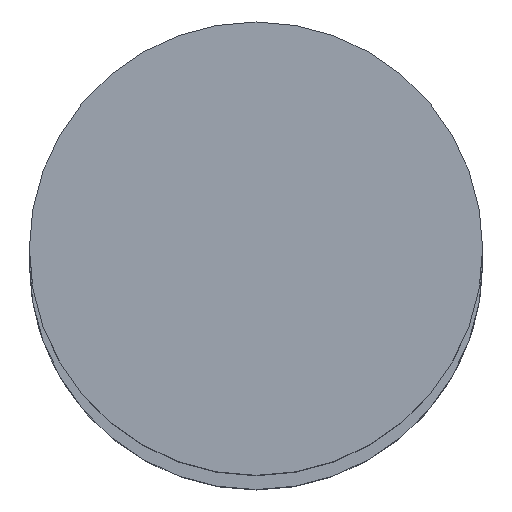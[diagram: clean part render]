
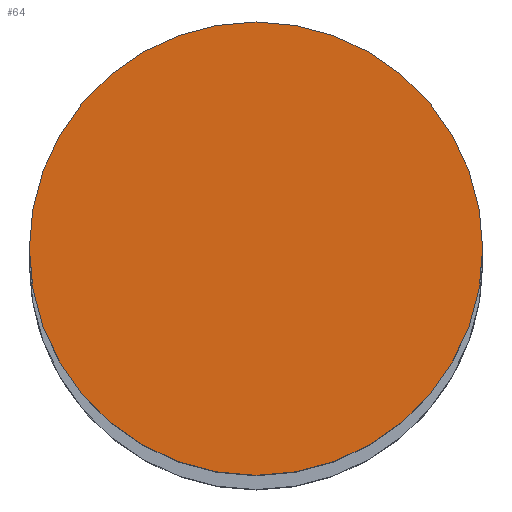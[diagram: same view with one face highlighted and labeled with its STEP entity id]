
A CAD part, top view. The second image highlights one B-rep face of the part: STEP entity #64.
In plain terms, the highlighted planar face has unit normal (0, 0, 1).
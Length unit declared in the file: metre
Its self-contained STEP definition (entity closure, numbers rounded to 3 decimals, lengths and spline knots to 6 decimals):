
#64=ADVANCED_FACE('25:217',(#136),#137,.T.);
#136=FACE_OUTER_BOUND('',#225,.T.);
#137=PLANE('',#226);
#225=EDGE_LOOP('',(#317,#318));
#226=AXIS2_PLACEMENT_3D('',#319,#320,#321);
#317=ORIENTED_EDGE('',*,*,#496,.F.);
#318=ORIENTED_EDGE('',*,*,#497,.F.);
#319=CARTESIAN_POINT('',(0.0,0.0,3.224));
#320=DIRECTION('',(0.0,0.0,1.0));
#321=DIRECTION('',(1.0,0.0,0.0));
#496=EDGE_CURVE('',#583,#584,#585,.F.);
#497=EDGE_CURVE('',#584,#583,#586,.F.);
#583=VERTEX_POINT('',#708);
#584=VERTEX_POINT('',#709);
#585=CIRCLE('',#710,0.0155);
#586=CIRCLE('',#711,0.0155);
#708=CARTESIAN_POINT('',(-0.015592,0.000095,3.224));
#709=CARTESIAN_POINT('',(0.015408,0.000095,3.224));
#710=AXIS2_PLACEMENT_3D('',#839,#840,#841);
#711=AXIS2_PLACEMENT_3D('',#842,#843,#844);
#839=CARTESIAN_POINT('',(-0.000092,0.000095,3.224));
#840=DIRECTION('',(0.0,0.0,1.0));
#841=DIRECTION('',(1.0,0.0,0.0));
#842=CARTESIAN_POINT('',(-0.000092,0.000095,3.224));
#843=DIRECTION('',(0.0,0.0,1.0));
#844=DIRECTION('',(1.0,0.0,0.0));
